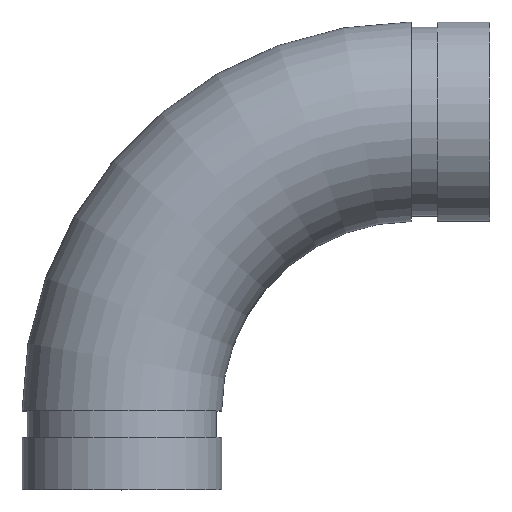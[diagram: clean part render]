
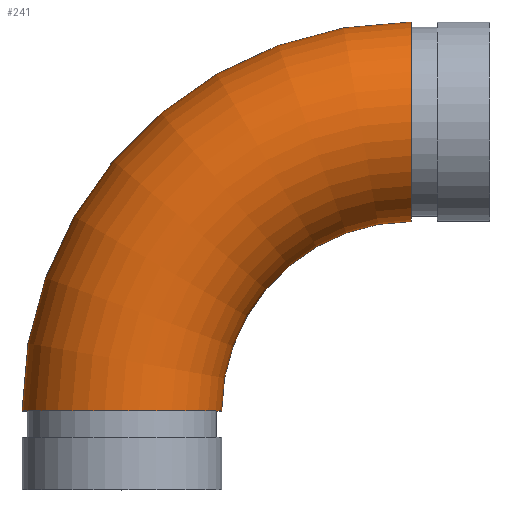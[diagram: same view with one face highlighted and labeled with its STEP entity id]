
A CAD part, top view. The second image highlights one B-rep face of the part: STEP entity #241.
In plain terms, the highlighted toroidal (fillet/blend) face has major radius 87.427 mm and minor radius 30.163 mm.
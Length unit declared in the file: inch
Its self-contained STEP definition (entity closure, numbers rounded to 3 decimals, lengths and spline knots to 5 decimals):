
#15=TOROIDAL_SURFACE('',#297,3.442,1.1875);
#38=FACE_OUTER_BOUND('',#56,.T.);
#56=EDGE_LOOP('',(#195,#196,#197,#198,#199,#200));
#78=CIRCLE('',#271,1.1875);
#79=CIRCLE('',#272,1.1875);
#88=CIRCLE('',#285,1.1875);
#89=CIRCLE('',#286,1.1875);
#96=CIRCLE('',#298,2.2545);
#102=VERTEX_POINT('',#399);
#103=VERTEX_POINT('',#400);
#112=VERTEX_POINT('',#424);
#113=VERTEX_POINT('',#425);
#125=EDGE_CURVE('',#102,#103,#78,.T.);
#126=EDGE_CURVE('',#103,#102,#79,.T.);
#136=EDGE_CURVE('',#112,#113,#88,.T.);
#137=EDGE_CURVE('',#113,#112,#89,.T.);
#147=EDGE_CURVE('',#103,#113,#96,.T.);
#195=ORIENTED_EDGE('',*,*,#125,.T.);
#196=ORIENTED_EDGE('',*,*,#147,.T.);
#197=ORIENTED_EDGE('',*,*,#136,.F.);
#198=ORIENTED_EDGE('',*,*,#137,.F.);
#199=ORIENTED_EDGE('',*,*,#147,.F.);
#200=ORIENTED_EDGE('',*,*,#126,.T.);
#241=ADVANCED_FACE('',(#38),#15,.T.);
#271=AXIS2_PLACEMENT_3D('',#401,#318,#319);
#272=AXIS2_PLACEMENT_3D('',#402,#320,#321);
#285=AXIS2_PLACEMENT_3D('',#426,#347,#348);
#286=AXIS2_PLACEMENT_3D('',#427,#349,#350);
#297=AXIS2_PLACEMENT_3D('',#446,#374,#375);
#298=AXIS2_PLACEMENT_3D('',#447,#376,#377);
#318=DIRECTION('center_axis',(0.,1.,0.));
#319=DIRECTION('ref_axis',(-1.,0.,0.));
#320=DIRECTION('center_axis',(0.,1.,0.));
#321=DIRECTION('ref_axis',(-1.,0.,0.));
#347=DIRECTION('center_axis',(1.,0.,0.));
#348=DIRECTION('ref_axis',(0.,1.,0.));
#349=DIRECTION('center_axis',(1.,0.,0.));
#350=DIRECTION('ref_axis',(0.,1.,0.));
#374=DIRECTION('center_axis',(0.,0.,1.));
#375=DIRECTION('ref_axis',(1.,0.,0.));
#376=DIRECTION('center_axis',(0.,0.,-1.));
#377=DIRECTION('ref_axis',(1.,0.,0.));
#399=CARTESIAN_POINT('',(0.,0.938,-1.1875));
#400=CARTESIAN_POINT('',(1.1875,0.938,0.));
#401=CARTESIAN_POINT('Origin',(0.,0.938,0.));
#402=CARTESIAN_POINT('Origin',(0.,0.938,0.));
#424=CARTESIAN_POINT('',(3.442,5.5675,0.));
#425=CARTESIAN_POINT('',(3.442,3.1925,0.));
#426=CARTESIAN_POINT('Origin',(3.442,4.38,0.));
#427=CARTESIAN_POINT('Origin',(3.442,4.38,0.));
#446=CARTESIAN_POINT('Origin',(3.442,0.938,0.));
#447=CARTESIAN_POINT('Origin',(3.442,0.938,0.));
